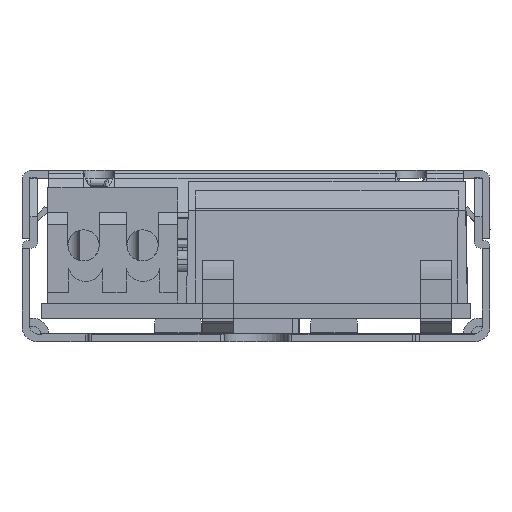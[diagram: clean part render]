
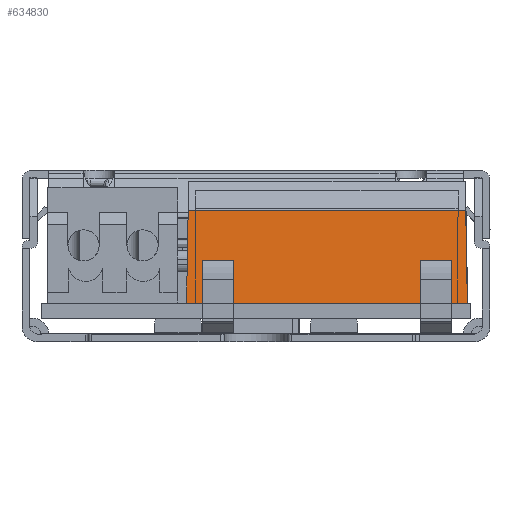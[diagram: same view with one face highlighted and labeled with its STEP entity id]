
A CAD part, left-side view. The second image highlights one B-rep face of the part: STEP entity #634830.
In plain terms, the highlighted planar face has unit normal (-0.996, 0.002, 0.087) as drawn and (-0.087, -0.996, 0) by its records, which use the part's own axes.
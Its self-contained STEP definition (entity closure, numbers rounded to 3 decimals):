
#626550=CARTESIAN_POINT('',(7.8,-0.519,-18.));
#626560=VERTEX_POINT('',#626550);
#626590=CARTESIAN_POINT('',(7.8,-0.519,-17.));
#626600=DIRECTION('',(0.,0.,-1.));
#626610=VECTOR('',#626600,1.);
#626620=LINE('',#626590,#626610);
#626630=CARTESIAN_POINT('',(7.8,-0.519,-17.));
#626640=VERTEX_POINT('',#626630);
#626650=EDGE_CURVE('',#626640,#626560,#626620,.T.);
#626870=CARTESIAN_POINT('',(7.8,-0.519,-15.));
#626880=VERTEX_POINT('',#626870);
#626910=CARTESIAN_POINT('',(7.8,-0.519,
-3.));
#626920=DIRECTION('',(0.,0.,-1.));
#626930=VECTOR('',#626920,1.);
#626940=LINE('',#626910,#626930);
#626950=CARTESIAN_POINT('',(7.8,-0.519,-3.));
#626960=VERTEX_POINT('',#626950);
#626970=EDGE_CURVE('',#626960,#626880,#626940,.T.);
#627190=CARTESIAN_POINT('',(7.8,-0.519,-1.));
#627200=VERTEX_POINT('',#627190);
#627230=CARTESIAN_POINT('',(7.8,-0.519,
0.));
#627240=DIRECTION('',(0.,0.,-1.));
#627250=VECTOR('',#627240,1.);
#627260=LINE('',#627230,#627250);
#627270=CARTESIAN_POINT('',(7.8,-0.519,0.)
);
#627280=VERTEX_POINT('',#627270);
#627290=EDGE_CURVE('',#627280,#627200,#627260,.T.);
#632290=CARTESIAN_POINT('',(7.8,-0.519,-3.));
#632300=DIRECTION('',(-0.996,0.087,0.));
#632310=VECTOR('',#632300,1.);
#632320=LINE('',#632290,#632310);
#632330=CARTESIAN_POINT('',(5.1,-0.283,
-3.));
#632340=VERTEX_POINT('',#632330);
#632350=EDGE_CURVE('',#626960,#632340,#632320,.T.);
#633410=CARTESIAN_POINT('',(1.863,0.,
-0.104));
#633420=DIRECTION('',(0.996,-0.087,
0.017));
#633430=VECTOR('',#633420,1.);
#633440=LINE('',#633410,#633430);
#633450=CARTESIAN_POINT('',(1.863,0.,
-0.104));
#633460=VERTEX_POINT('',#633450);
#633470=EDGE_CURVE('',#633460,#627280,#633440,.T.);
#633990=CARTESIAN_POINT('',(1.863,0.,
-17.896));
#634000=VERTEX_POINT('',#633990);
#634030=CARTESIAN_POINT('',(7.8,-0.519,-18.));
#634040=DIRECTION('',(-0.996,0.087,
0.017));
#634050=VECTOR('',#634040,1.);
#634060=LINE('',#634030,#634050);
#634070=EDGE_CURVE('',#626560,#634000,#634060,.T.);
#634220=CARTESIAN_POINT('',(1.863,0.,
-0.104));
#634230=DIRECTION('',(0.,0.,-1.));
#634240=VECTOR('',#634230,1.);
#634250=LINE('',#634220,#634240);
#634260=EDGE_CURVE('',#633460,#634000,#634250,.T.);
#634330=CARTESIAN_POINT('',(1.863,0.,0.));
#634340=DIRECTION('',(-0.087,-0.996,-0.));
#634350=DIRECTION('',(0.,0.,-1.));
#634360=AXIS2_PLACEMENT_3D('',#634330,#634340,#634350);
#634370=PLANE('',#634360);
#634380=CARTESIAN_POINT('',(7.8,-0.519,-17.));
#634390=DIRECTION('',(-0.996,0.087,0.));
#634400=VECTOR('',#634390,1.);
#634410=LINE('',#634380,#634400);
#634420=CARTESIAN_POINT('',(5.1,-0.283,-17.));
#634430=VERTEX_POINT('',#634420);
#634440=EDGE_CURVE('',#626640,#634430,#634410,.T.);
#634450=ORIENTED_EDGE('',*,*,#634440,.T.);
#634460=ORIENTED_EDGE('',*,*,#626650,.F.);
#634470=ORIENTED_EDGE('',*,*,#634070,.F.);
#634480=ORIENTED_EDGE('',*,*,#634260,.T.);
#634490=ORIENTED_EDGE('',*,*,#633470,.F.);
#634500=ORIENTED_EDGE('',*,*,#627290,.F.);
#634510=CARTESIAN_POINT('',(5.1,-0.283,
-1.));
#634520=DIRECTION('',(0.996,-0.087,0.));
#634530=VECTOR('',#634520,1.);
#634540=LINE('',#634510,#634530);
#634550=CARTESIAN_POINT('',(5.1,-0.283,
-1.));
#634560=VERTEX_POINT('',#634550);
#634570=EDGE_CURVE('',#634560,#627200,#634540,.T.);
#634580=ORIENTED_EDGE('',*,*,#634570,.T.);
#634590=CARTESIAN_POINT('',(5.1,-0.283,
-3.));
#634600=DIRECTION('',(0.,0.,1.));
#634610=VECTOR('',#634600,1.);
#634620=LINE('',#634590,#634610);
#634630=EDGE_CURVE('',#632340,#634560,#634620,.T.);
#634640=ORIENTED_EDGE('',*,*,#634630,.T.);
#634650=ORIENTED_EDGE('',*,*,#632350,.T.);
#634660=ORIENTED_EDGE('',*,*,#626970,.F.);
#634670=CARTESIAN_POINT('',(5.1,-0.283,-15.));
#634680=DIRECTION('',(0.996,-0.087,0.));
#634690=VECTOR('',#634680,1.);
#634700=LINE('',#634670,#634690);
#634710=CARTESIAN_POINT('',(5.1,-0.283,-15.));
#634720=VERTEX_POINT('',#634710);
#634730=EDGE_CURVE('',#634720,#626880,#634700,.T.);
#634740=ORIENTED_EDGE('',*,*,#634730,.T.);
#634750=CARTESIAN_POINT('',(5.1,-0.283,-17.));
#634760=DIRECTION('',(0.,0.,1.));
#634770=VECTOR('',#634760,1.);
#634780=LINE('',#634750,#634770);
#634790=EDGE_CURVE('',#634430,#634720,#634780,.T.);
#634800=ORIENTED_EDGE('',*,*,#634790,.T.);
#634810=EDGE_LOOP('',(#634800,#634740,#634660,#634650,#634640,#634580,
#634500,#634490,#634480,#634470,#634460,#634450));
#634820=FACE_OUTER_BOUND('',#634810,.T.);
#634830=ADVANCED_FACE('',(#634820),#634370,.T.);
